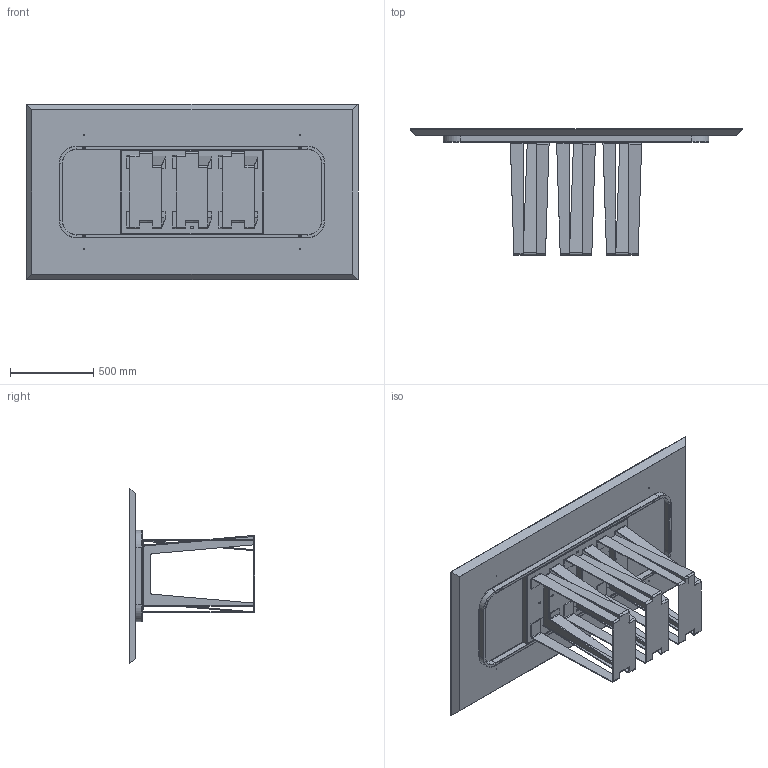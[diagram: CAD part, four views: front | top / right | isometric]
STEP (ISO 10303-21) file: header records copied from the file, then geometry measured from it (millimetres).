
FILE_DESCRIPTION (( 'STEP AP203' ), '1' );
FILE_NAME ('NA21W.STEP', '2024-08-07T14:39:50', ( '' ), ( '' ), 'SwSTEP 2.0', 'SolidWorks 2022', '' );
FILE_SCHEMA (( 'CONFIG_CONTROL_DESIGN' ));
Length unit declared in the file: millimetre
Products named in the file (7): TTAV01_01-01-TELAIO UNIVERSALE X TAVOLI 180 240cm_Default<A macchina>; NAB000000-00-NARCISO BASE SING. GREZZA; TTAV01-01-TELAIO UNIVERSALE X TAVOLI 180 240cm; TTAV01_02-01-VASSOIO IRRIGIDIMENTO TELAIO UNIVERSALE; NA21W; M8xXXmm_M8x55mm; W2XCMXX-00-Piani Rettangolari in legno_2000 x 1060
Assembly tree (17 placements, depth 3):
  NA21W
    W2XCMXX-00-Piani Rettangolari in legno_2000 x 1060
    TTAV01-01-TELAIO UNIVERSALE X TAVOLI 180 240cm
      TTAV01_01-01-TELAIO UNIVERSALE X TAVOLI 180 240cm_Default<A macchina>
      TTAV01_02-01-VASSOIO IRRIGIDIMENTO TELAIO UNIVERSALE
    NAB000000-00-NARCISO BASE SING. GREZZA  x3
    M8xXXmm_M8x55mm  x10
Bounding box: 2000 x 758 x 1060 mm (x, y, z)
Volume: 88440688.6 mm3; surface area: 9261865.1 mm2
Topology: 26 solids, 26 shells, 1143 faces, 2805 edges, 1689 vertices
Faces by surface type: plane 585, cylinder 304, cone 146, torus 72, bspline 36
Entity records: 18841 total; most frequent: CARTESIAN_POINT 3444, DIRECTION 3064, ORIENTED_EDGE 2934, EDGE_CURVE 1467, AXIS2_PLACEMENT_3D 1077, VERTEX_POINT 933, LINE 910, VECTOR 910
